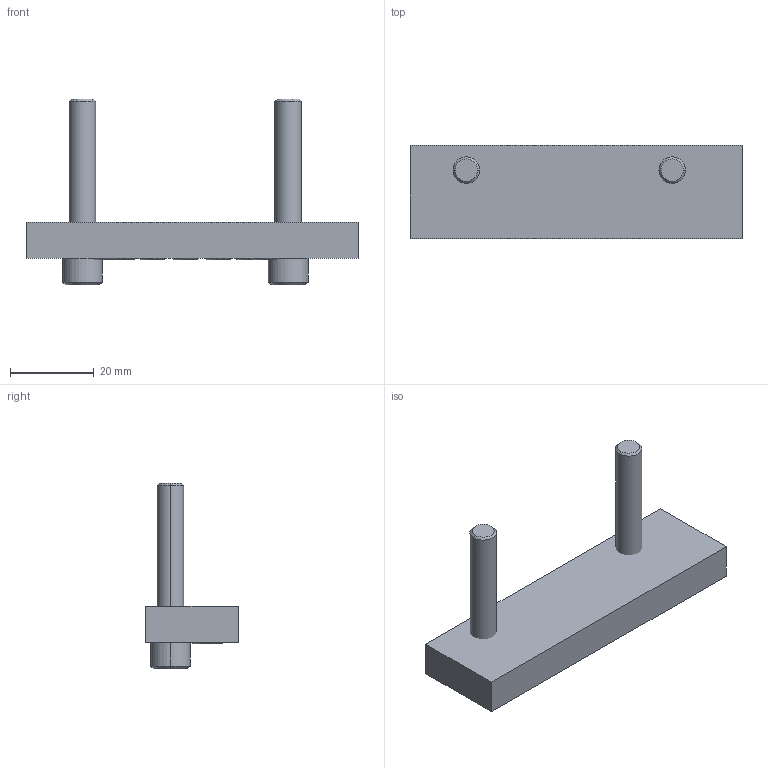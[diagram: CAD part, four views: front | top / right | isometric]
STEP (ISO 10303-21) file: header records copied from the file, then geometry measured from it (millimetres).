
FILE_DESCRIPTION((''),'2;1');
FILE_NAME('24R633-EN-D_PRT','2019-12-31T18:04:03',('qusrh3'),(''),'CREO PARAMETRIC BY PTC INC, 2019030','CREO PARAMETRIC BY PTC INC, 2019030','');
FILE_SCHEMA(('CONFIG_CONTROL_DESIGN'));
Length unit declared in the file: inch
Products named in the file (1): 24R633-EN-D_PRT
Bounding box: 79.38 x 22.23 x 44.45 mm (x, y, z)
Surface area: 7698.4 mm2 (no closed solid volume)
Topology: 0 solids, 14 shells, 44 faces, 106 edges, 68 vertices
Faces by surface type: torus 18, plane 10, cone 8, cylinder 8
Entity records: 1323 total; most frequent: DIRECTION 272, CARTESIAN_POINT 218, ORIENTED_EDGE 168, AXIS2_PLACEMENT_3D 122, EDGE_CURVE 106, CIRCLE 78, VERTEX_POINT 68, EDGE_LOOP 44
